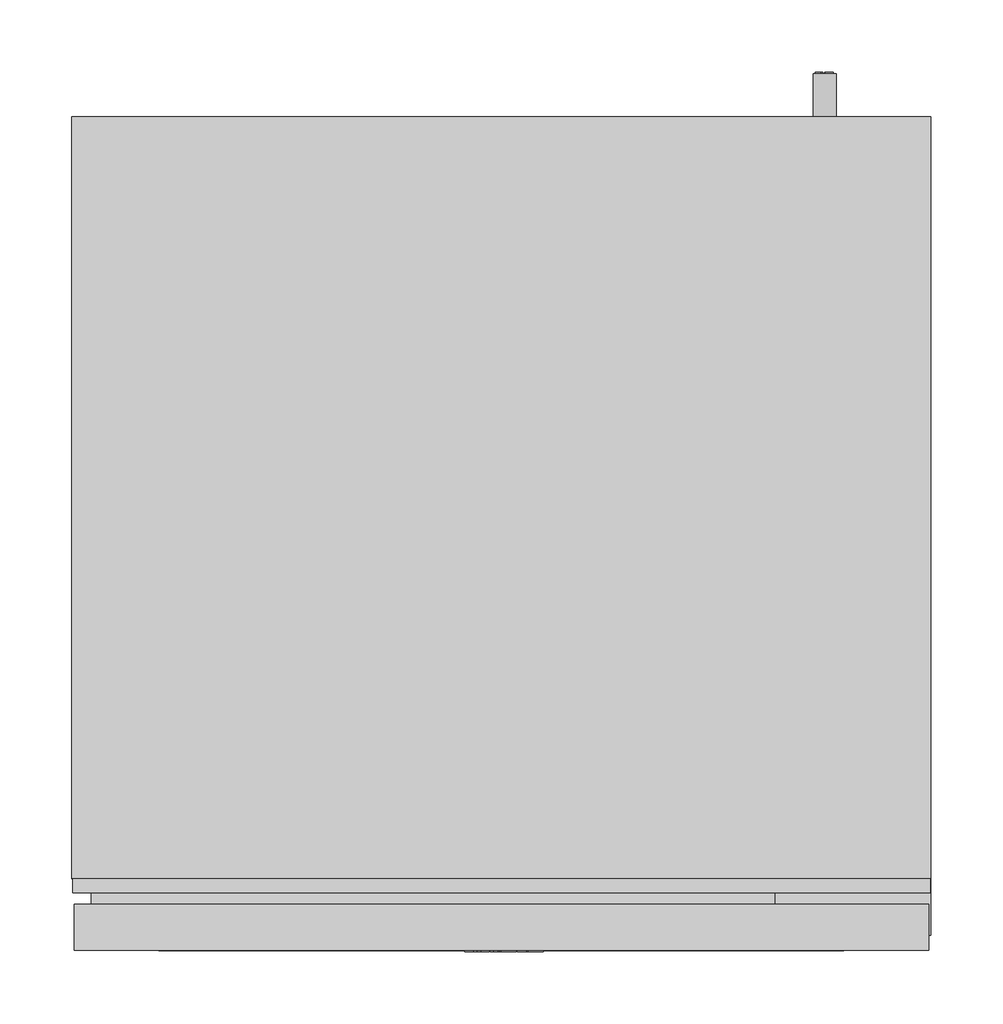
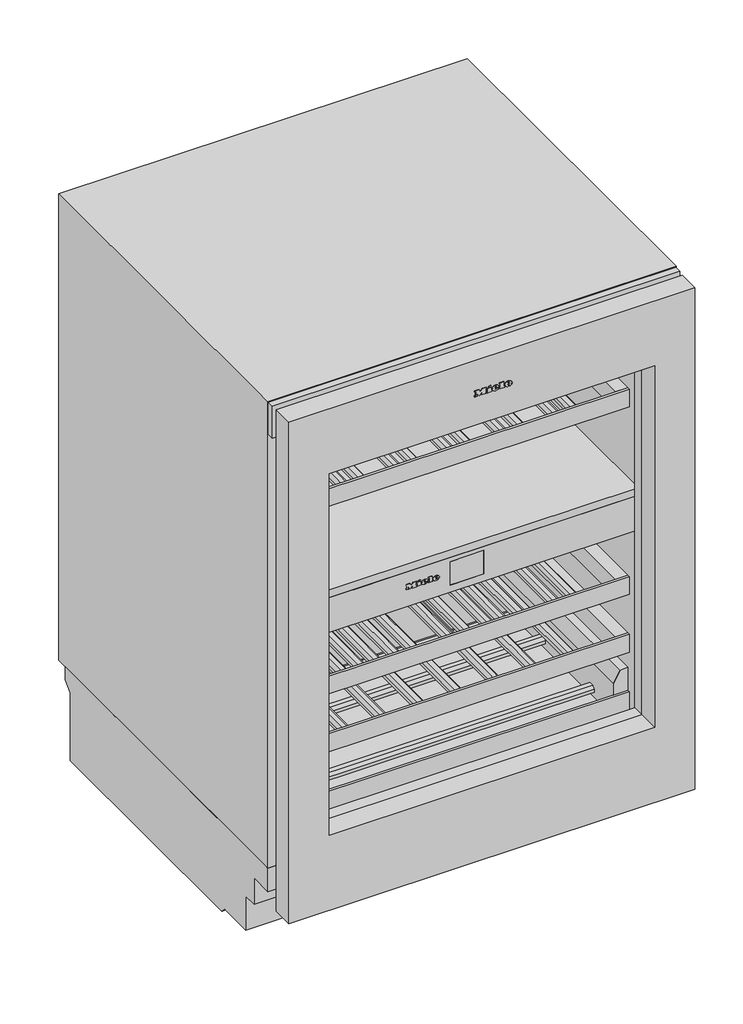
# Not in any storey: 1 proxy.
"""IFC4 building model written with IfcOpenShell, lengths in millimetres."""

from ifc_helpers import new_model, si_unit, origin, place, context, project, spatial, transform, mapped, element, save
from components import specialty_equipment_d994dd0a

model = new_model("IFC4")

# Units and contexts
model_context = context("Model", 3, world=origin())
ifc_project = project(units=[si_unit("LENGTHUNIT", "METRE", prefix="MILLI")], contexts=[model_context])

# Site, building
site = spatial("IfcSite", under=ifc_project)
building = spatial("IfcBuilding", under=site)

# Proxy
placement = place(None, origin())
specialty_equipment_shape = specialty_equipment_d994dd0a(model_context)
element("IfcBuildingElementProxy", 1, Name="12519660_EU1_KWTUS7196E_OBSW : 39719610_EU1_12519660_KWTUS7196E_OBSW", ObjectType="12519660_EU1_KWTUS7196E_OBSW : 39719610_EU1_12519660_KWTUS7196E_OBSW", at=placement, inside=building, context=model_context, shape_type="MappedRepresentation", body=[
    mapped(specialty_equipment_shape, transform((0.0, 0.0, 0.0), x_axis=(1.0, 0.0, 0.0), y_axis=(0.0, 1.0, 0.0), z_axis=(0.0, 0.0, 1.0))),
])

save(model, "model.ifc")
